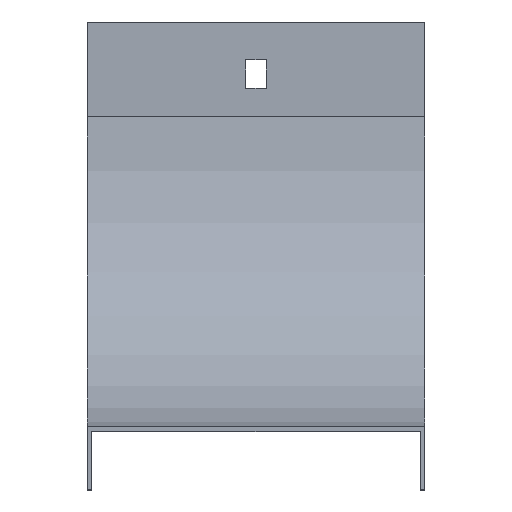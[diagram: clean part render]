
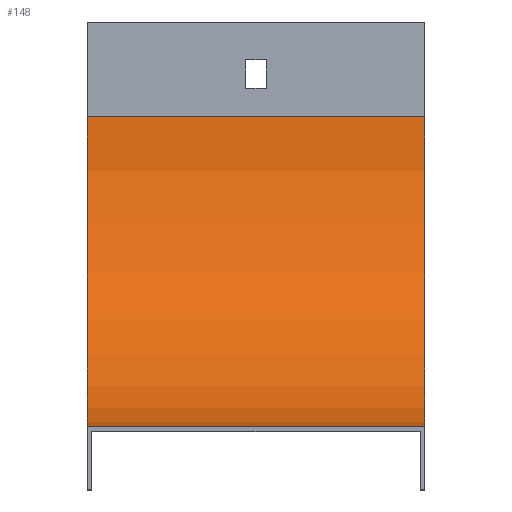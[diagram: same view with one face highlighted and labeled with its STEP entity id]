
A CAD part, top view. The second image highlights one B-rep face of the part: STEP entity #148.
In plain terms, the highlighted cylindrical face has radius 98.5 mm (diameter 197 mm), a partial arc.
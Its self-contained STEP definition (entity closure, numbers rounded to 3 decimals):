
#6 = DIRECTION ( 'NONE',  ( -1., 0., 0. ) ) ;
#10 = AXIS2_PLACEMENT_3D ( 'NONE', #270, #395, #273 ) ;
#33 = DIRECTION ( 'NONE',  ( -1., 0., 0. ) ) ;
#65 = CIRCLE ( 'NONE', #10, 98.5 ) ;
#78 = DIRECTION ( 'NONE',  ( -1., 0., 0. ) ) ;
#100 = DIRECTION ( 'NONE',  ( -1., 0., 0. ) ) ;
#144 = EDGE_CURVE ( 'NONE', #299, #782, #293, .T. ) ;
#148 = ADVANCED_FACE ( 'NONE', ( #537 ), #670, .F. ) ;
#150 = CARTESIAN_POINT ( 'NONE',  ( 53.5, 0., -30. ) ) ;
#170 = VERTEX_POINT ( 'NONE', #283 ) ;
#172 = AXIS2_PLACEMENT_3D ( 'NONE', #807, #78, #481 ) ;
#207 = CIRCLE ( 'NONE', #315, 98.5 ) ;
#245 = VECTOR ( 'NONE', #100, 1000. ) ;
#249 = ORIENTED_EDGE ( 'NONE', *, *, #762, .F. ) ;
#270 = CARTESIAN_POINT ( 'NONE',  ( -53.5, 98.5, -30. ) ) ;
#273 = DIRECTION ( 'NONE',  ( 0., 0., -1. ) ) ;
#283 = CARTESIAN_POINT ( 'NONE',  ( -53.5, 98.5, -128.5 ) ) ;
#293 = LINE ( 'NONE', #150, #542 ) ;
#299 = VERTEX_POINT ( 'NONE', #361 ) ;
#306 = EDGE_LOOP ( 'NONE', ( #441, #748, #249, #310 ) ) ;
#307 = DIRECTION ( 'NONE',  ( 0., 0., -1. ) ) ;
#310 = ORIENTED_EDGE ( 'NONE', *, *, #757, .T. ) ;
#315 = AXIS2_PLACEMENT_3D ( 'NONE', #430, #33, #307 ) ;
#361 = CARTESIAN_POINT ( 'NONE',  ( 53.5, 0., -30. ) ) ;
#395 = DIRECTION ( 'NONE',  ( -1., 0., 0. ) ) ;
#430 = CARTESIAN_POINT ( 'NONE',  ( 53.5, 98.5, -30. ) ) ;
#439 = CARTESIAN_POINT ( 'NONE',  ( 53.5, 98.5, -128.5 ) ) ;
#441 = ORIENTED_EDGE ( 'NONE', *, *, #446, .T. ) ;
#445 = CARTESIAN_POINT ( 'NONE',  ( -53.5, 0., -30. ) ) ;
#446 = EDGE_CURVE ( 'NONE', #170, #782, #65, .T. ) ;
#481 = DIRECTION ( 'NONE',  ( 0., 0., 1. ) ) ;
#537 = FACE_OUTER_BOUND ( 'NONE', #306, .T. ) ;
#542 = VECTOR ( 'NONE', #6, 1000. ) ;
#670 = CYLINDRICAL_SURFACE ( 'NONE', #172, 98.5 ) ;
#674 = VERTEX_POINT ( 'NONE', #439 ) ;
#684 = CARTESIAN_POINT ( 'NONE',  ( 53.5, 98.5, -128.5 ) ) ;
#748 = ORIENTED_EDGE ( 'NONE', *, *, #144, .F. ) ;
#757 = EDGE_CURVE ( 'NONE', #674, #170, #769, .T. ) ;
#762 = EDGE_CURVE ( 'NONE', #674, #299, #207, .T. ) ;
#769 = LINE ( 'NONE', #684, #245 ) ;
#782 = VERTEX_POINT ( 'NONE', #445 ) ;
#807 = CARTESIAN_POINT ( 'NONE',  ( 53.5, 98.5, -30. ) ) ;
